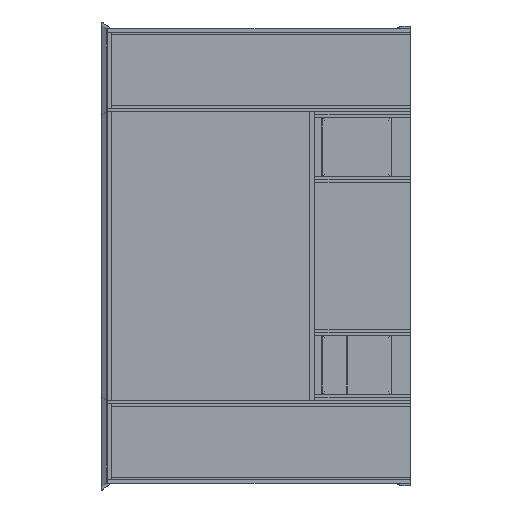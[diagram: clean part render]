
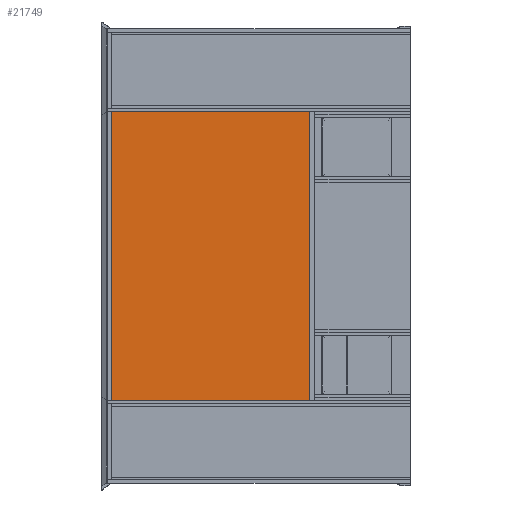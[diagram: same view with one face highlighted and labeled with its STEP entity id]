
A CAD part, left-side view. The second image highlights one B-rep face of the part: STEP entity #21749.
In plain terms, the highlighted planar face has unit normal (-1, 0, 0) as drawn and (0, 0, -1) by its records, which use the part's own axes.
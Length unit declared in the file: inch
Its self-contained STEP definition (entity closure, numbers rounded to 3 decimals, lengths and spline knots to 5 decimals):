
#4578=FACE_OUTER_BOUND('',#5766,.T.);
#5766=EDGE_LOOP('',(#17273,#17274,#17275,#17276));
#7413=LINE('',#32970,#9711);
#7416=LINE('',#32976,#9714);
#7419=LINE('',#32982,#9717);
#7422=LINE('',#32987,#9720);
#9711=VECTOR('',#26851,0.3937);
#9714=VECTOR('',#26856,0.3937);
#9717=VECTOR('',#26861,0.3937);
#9720=VECTOR('',#26866,0.3937);
#11717=VERTEX_POINT('',#32967);
#11718=VERTEX_POINT('',#32969);
#11720=VERTEX_POINT('',#32975);
#11722=VERTEX_POINT('',#32981);
#13701=EDGE_CURVE('',#11717,#11718,#7413,.T.);
#13704=EDGE_CURVE('',#11720,#11717,#7416,.T.);
#13707=EDGE_CURVE('',#11722,#11718,#7419,.T.);
#13710=EDGE_CURVE('',#11720,#11722,#7422,.T.);
#17273=ORIENTED_EDGE('',*,*,#13704,.F.);
#17274=ORIENTED_EDGE('',*,*,#13710,.T.);
#17275=ORIENTED_EDGE('',*,*,#13707,.T.);
#17276=ORIENTED_EDGE('',*,*,#13701,.F.);
#20647=PLANE('',#23788);
#21749=ADVANCED_FACE('',(#4578),#20647,.F.);
#23788=AXIS2_PLACEMENT_3D('',#32990,#26870,#26871);
#26851=DIRECTION('',(1.,0.,0.));
#26856=DIRECTION('',(0.,-1.,0.));
#26861=DIRECTION('',(0.,-1.,0.));
#26866=DIRECTION('',(1.,0.,0.));
#26870=DIRECTION('center_axis',(0.,0.,1.));
#26871=DIRECTION('ref_axis',(1.,0.,0.));
#32967=CARTESIAN_POINT('',(-1.,-28.,0.));
#32969=CARTESIAN_POINT('',(83.,-28.,0.));
#32970=CARTESIAN_POINT('',(-1.,-28.,0.));
#32975=CARTESIAN_POINT('',(-1.,29.75,0.));
#32976=CARTESIAN_POINT('',(-1.,29.75,0.));
#32981=CARTESIAN_POINT('',(83.,29.75,0.));
#32982=CARTESIAN_POINT('',(83.,0.,0.));
#32987=CARTESIAN_POINT('',(82.,29.75,0.));
#32990=CARTESIAN_POINT('Origin',(41.,14.875,0.));
